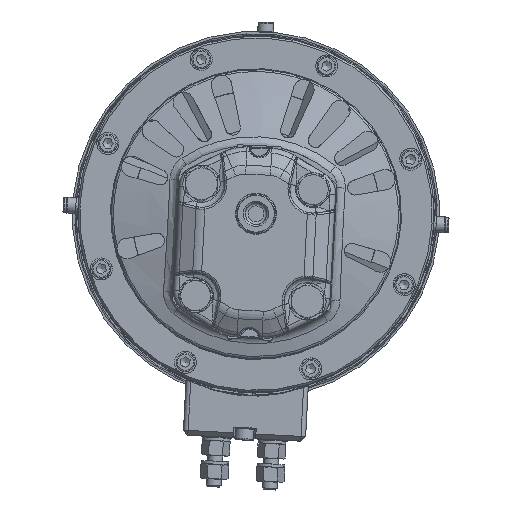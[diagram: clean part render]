
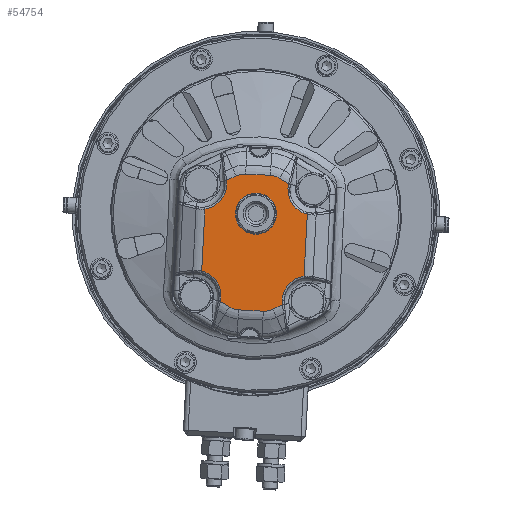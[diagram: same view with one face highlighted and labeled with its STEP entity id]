
A CAD part, top view. The second image highlights one B-rep face of the part: STEP entity #54754.
In plain terms, the highlighted planar face has unit normal (0, 0, 1).
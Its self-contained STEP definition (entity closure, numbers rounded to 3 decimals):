
#1336=FACE_BOUND('',#8429,.T.);
#3419=PLANE('',#58848);
#5165=FACE_OUTER_BOUND('',#8428,.T.);
#8428=EDGE_LOOP('',(#39184,#39185,#39186,#39187,#39188,#39189,#39190,#39191,
#39192,#39193,#39194,#39195,#39196,#39197,#39198,#39199,#39200,#39201,#39202,
#39203));
#8429=EDGE_LOOP('',(#39204));
#11863=CIRCLE('',#58826,13.596);
#11874=CIRCLE('',#58849,13.596);
#11875=CIRCLE('',#58850,10.466);
#11876=CIRCLE('',#58851,10.466);
#11877=CIRCLE('',#58852,13.596);
#11878=CIRCLE('',#58853,13.596);
#11879=CIRCLE('',#58854,10.466);
#11880=CIRCLE('',#58855,10.466);
#11881=CIRCLE('',#58856,11.);
#15567=LINE('',#89342,#19040);
#15570=LINE('',#89424,#19043);
#15571=LINE('',#89428,#19044);
#15572=LINE('',#89430,#19045);
#15573=LINE('',#89434,#19046);
#15574=LINE('',#89438,#19047);
#15575=LINE('',#89440,#19048);
#15576=LINE('',#89444,#19049);
#15577=LINE('',#89448,#19050);
#15578=LINE('',#89450,#19051);
#15579=LINE('',#89454,#19052);
#15580=LINE('',#89457,#19053);
#19040=VECTOR('',#68405,0.13);
#19043=VECTOR('',#68426,33.284);
#19044=VECTOR('',#68429,0.13);
#19045=VECTOR('',#68430,5.676);
#19046=VECTOR('',#68433,13.302);
#19047=VECTOR('',#68436,5.676);
#19048=VECTOR('',#68437,0.13);
#19049=VECTOR('',#68440,33.284);
#19050=VECTOR('',#68443,0.13);
#19051=VECTOR('',#68444,5.676);
#19052=VECTOR('',#68447,13.302);
#19053=VECTOR('',#68450,5.676);
#22807=VERTEX_POINT('',#89127);
#22810=VERTEX_POINT('',#89132);
#22816=VERTEX_POINT('',#89215);
#22829=VERTEX_POINT('',#89423);
#22830=VERTEX_POINT('',#89425);
#22831=VERTEX_POINT('',#89427);
#22832=VERTEX_POINT('',#89429);
#22833=VERTEX_POINT('',#89431);
#22834=VERTEX_POINT('',#89433);
#22835=VERTEX_POINT('',#89435);
#22836=VERTEX_POINT('',#89437);
#22837=VERTEX_POINT('',#89439);
#22838=VERTEX_POINT('',#89441);
#22839=VERTEX_POINT('',#89443);
#22840=VERTEX_POINT('',#89445);
#22841=VERTEX_POINT('',#89447);
#22842=VERTEX_POINT('',#89449);
#22843=VERTEX_POINT('',#89451);
#22844=VERTEX_POINT('',#89453);
#22845=VERTEX_POINT('',#89455);
#22846=VERTEX_POINT('',#89458);
#28750=EDGE_CURVE('',#22810,#22807,#11863,.T.);
#28770=EDGE_CURVE('',#22807,#22816,#15567,.T.);
#28781=EDGE_CURVE('',#22829,#22810,#15570,.T.);
#28782=EDGE_CURVE('',#22830,#22829,#11874,.T.);
#28783=EDGE_CURVE('',#22831,#22830,#15571,.T.);
#28784=EDGE_CURVE('',#22832,#22831,#15572,.T.);
#28785=EDGE_CURVE('',#22833,#22832,#11875,.T.);
#28786=EDGE_CURVE('',#22834,#22833,#15573,.T.);
#28787=EDGE_CURVE('',#22835,#22834,#11876,.T.);
#28788=EDGE_CURVE('',#22836,#22835,#15574,.T.);
#28789=EDGE_CURVE('',#22837,#22836,#15575,.T.);
#28790=EDGE_CURVE('',#22838,#22837,#11877,.T.);
#28791=EDGE_CURVE('',#22839,#22838,#15576,.T.);
#28792=EDGE_CURVE('',#22840,#22839,#11878,.T.);
#28793=EDGE_CURVE('',#22841,#22840,#15577,.T.);
#28794=EDGE_CURVE('',#22842,#22841,#15578,.T.);
#28795=EDGE_CURVE('',#22843,#22842,#11879,.T.);
#28796=EDGE_CURVE('',#22844,#22843,#15579,.T.);
#28797=EDGE_CURVE('',#22845,#22844,#11880,.T.);
#28798=EDGE_CURVE('',#22816,#22845,#15580,.T.);
#28799=EDGE_CURVE('',#22846,#22846,#11881,.T.);
#39184=ORIENTED_EDGE('',*,*,#28770,.F.);
#39185=ORIENTED_EDGE('',*,*,#28750,.F.);
#39186=ORIENTED_EDGE('',*,*,#28781,.F.);
#39187=ORIENTED_EDGE('',*,*,#28782,.F.);
#39188=ORIENTED_EDGE('',*,*,#28783,.F.);
#39189=ORIENTED_EDGE('',*,*,#28784,.F.);
#39190=ORIENTED_EDGE('',*,*,#28785,.F.);
#39191=ORIENTED_EDGE('',*,*,#28786,.F.);
#39192=ORIENTED_EDGE('',*,*,#28787,.F.);
#39193=ORIENTED_EDGE('',*,*,#28788,.F.);
#39194=ORIENTED_EDGE('',*,*,#28789,.F.);
#39195=ORIENTED_EDGE('',*,*,#28790,.F.);
#39196=ORIENTED_EDGE('',*,*,#28791,.F.);
#39197=ORIENTED_EDGE('',*,*,#28792,.F.);
#39198=ORIENTED_EDGE('',*,*,#28793,.F.);
#39199=ORIENTED_EDGE('',*,*,#28794,.F.);
#39200=ORIENTED_EDGE('',*,*,#28795,.F.);
#39201=ORIENTED_EDGE('',*,*,#28796,.F.);
#39202=ORIENTED_EDGE('',*,*,#28797,.F.);
#39203=ORIENTED_EDGE('',*,*,#28798,.F.);
#39204=ORIENTED_EDGE('',*,*,#28799,.F.);
#54754=ADVANCED_FACE('',(#5165,#1336),#3419,.T.);
#58826=AXIS2_PLACEMENT_3D('',#89134,#68374,#68375);
#58848=AXIS2_PLACEMENT_3D('',#89422,#68424,#68425);
#58849=AXIS2_PLACEMENT_3D('',#89426,#68427,#68428);
#58850=AXIS2_PLACEMENT_3D('',#89432,#68431,#68432);
#58851=AXIS2_PLACEMENT_3D('',#89436,#68434,#68435);
#58852=AXIS2_PLACEMENT_3D('',#89442,#68438,#68439);
#58853=AXIS2_PLACEMENT_3D('',#89446,#68441,#68442);
#58854=AXIS2_PLACEMENT_3D('',#89452,#68445,#68446);
#58855=AXIS2_PLACEMENT_3D('',#89456,#68448,#68449);
#58856=AXIS2_PLACEMENT_3D('',#89459,#68451,#68452);
#68374=DIRECTION('center_axis',(0.,0.,
1.));
#68375=DIRECTION('ref_axis',(0.792,-0.611,0.));
#68405=DIRECTION('',(-0.122,0.993,0.));
#68424=DIRECTION('center_axis',(0.,0.,
1.));
#68425=DIRECTION('ref_axis',(-0.999,0.052,0.));
#68426=DIRECTION('',(0.052,0.999,0.));
#68427=DIRECTION('center_axis',(0.,0.,
1.));
#68428=DIRECTION('ref_axis',(0.851,0.525,0.));
#68429=DIRECTION('',(0.225,0.974,0.));
#68430=DIRECTION('',(-0.853,0.522,0.));
#68431=DIRECTION('center_axis',(0.,0.,
-1.));
#68432=DIRECTION('ref_axis',(-0.297,-0.955,0.));
#68433=DIRECTION('',(-0.999,0.052,0.));
#68434=DIRECTION('center_axis',(0.,0.,
-1.));
#68435=DIRECTION('ref_axis',(0.195,-0.981,0.));
#68436=DIRECTION('',(-0.903,-0.431,0.));
#68437=DIRECTION('',(0.122,-0.993,0.));
#68438=DIRECTION('center_axis',(0.,0.,
1.));
#68439=DIRECTION('ref_axis',(-0.792,0.611,0.));
#68440=DIRECTION('',(-0.052,-0.999,0.));
#68441=DIRECTION('center_axis',(0.,0.,
1.));
#68442=DIRECTION('ref_axis',(-0.851,-0.525,0.));
#68443=DIRECTION('',(-0.225,-0.974,0.));
#68444=DIRECTION('',(0.853,-0.522,0.));
#68445=DIRECTION('center_axis',(0.,0.,
-1.));
#68446=DIRECTION('ref_axis',(0.297,0.955,0.));
#68447=DIRECTION('',(0.999,-0.052,0.));
#68448=DIRECTION('center_axis',(0.,0.,
-1.));
#68449=DIRECTION('ref_axis',(-0.195,0.981,0.));
#68450=DIRECTION('',(0.903,0.431,0.));
#68451=DIRECTION('center_axis',(0.,0.,
1.));
#68452=DIRECTION('ref_axis',(-0.999,0.052,0.));
#89127=CARTESIAN_POINT('',(-15.706,17.697,150.5));
#89132=CARTESIAN_POINT('',(-27.369,2.568,150.5));
#89134=CARTESIAN_POINT('Origin',(-29.201,16.04,150.5));
#89215=CARTESIAN_POINT('',(-15.722,17.826,150.5));
#89342=CARTESIAN_POINT('',(-15.706,17.697,150.5));
#89422=CARTESIAN_POINT('Origin',(-11.125,36.122,150.5));
#89423=CARTESIAN_POINT('',(-29.111,-30.671,150.5));
#89424=CARTESIAN_POINT('',(-29.111,-30.671,150.5));
#89425=CARTESIAN_POINT('',(-19.093,-46.936,150.5));
#89426=CARTESIAN_POINT('Origin',(-32.341,-43.878,150.5));
#89427=CARTESIAN_POINT('',(-19.122,-47.063,150.5));
#89428=CARTESIAN_POINT('',(-19.122,-47.063,150.5));
#89429=CARTESIAN_POINT('',(-14.282,-50.028,150.5));
#89430=CARTESIAN_POINT('',(-14.282,-50.028,150.5));
#89431=CARTESIAN_POINT('',(-9.362,-51.556,150.5));
#89432=CARTESIAN_POINT('Origin',(-8.814,-41.105,150.5));
#89433=CARTESIAN_POINT('',(3.922,-52.252,150.5));
#89434=CARTESIAN_POINT('',(3.922,-52.252,150.5));
#89435=CARTESIAN_POINT('',(8.975,-51.247,150.5));
#89436=CARTESIAN_POINT('Origin',(4.469,-41.801,150.5));
#89437=CARTESIAN_POINT('',(14.098,-48.804,150.5));
#89438=CARTESIAN_POINT('',(14.098,-48.804,150.5));
#89439=CARTESIAN_POINT('',(14.082,-48.675,150.5));
#89440=CARTESIAN_POINT('',(14.082,-48.675,150.5));
#89441=CARTESIAN_POINT('',(25.745,-33.546,150.5));
#89442=CARTESIAN_POINT('Origin',(27.577,-47.018,150.5));
#89443=CARTESIAN_POINT('',(27.487,-0.307,150.5));
#89444=CARTESIAN_POINT('',(27.487,-0.307,150.5));
#89445=CARTESIAN_POINT('',(17.47,15.959,150.5));
#89446=CARTESIAN_POINT('Origin',(30.717,12.9,150.5));
#89447=CARTESIAN_POINT('',(17.499,16.085,150.5));
#89448=CARTESIAN_POINT('',(17.499,16.085,150.5));
#89449=CARTESIAN_POINT('',(12.659,19.051,150.5));
#89450=CARTESIAN_POINT('',(12.659,19.051,150.5));
#89451=CARTESIAN_POINT('',(7.738,20.579,150.5));
#89452=CARTESIAN_POINT('Origin',(7.191,10.128,150.5));
#89453=CARTESIAN_POINT('',(-5.545,21.275,150.5));
#89454=CARTESIAN_POINT('',(-5.545,21.275,150.5));
#89455=CARTESIAN_POINT('',(-10.598,20.27,150.5));
#89456=CARTESIAN_POINT('Origin',(-6.093,10.824,150.5));
#89457=CARTESIAN_POINT('',(-15.722,17.826,150.5));
#89458=CARTESIAN_POINT('',(-10.985,0.566,150.5));
#89459=CARTESIAN_POINT('Origin',(-0.001,-0.01,
150.5));
